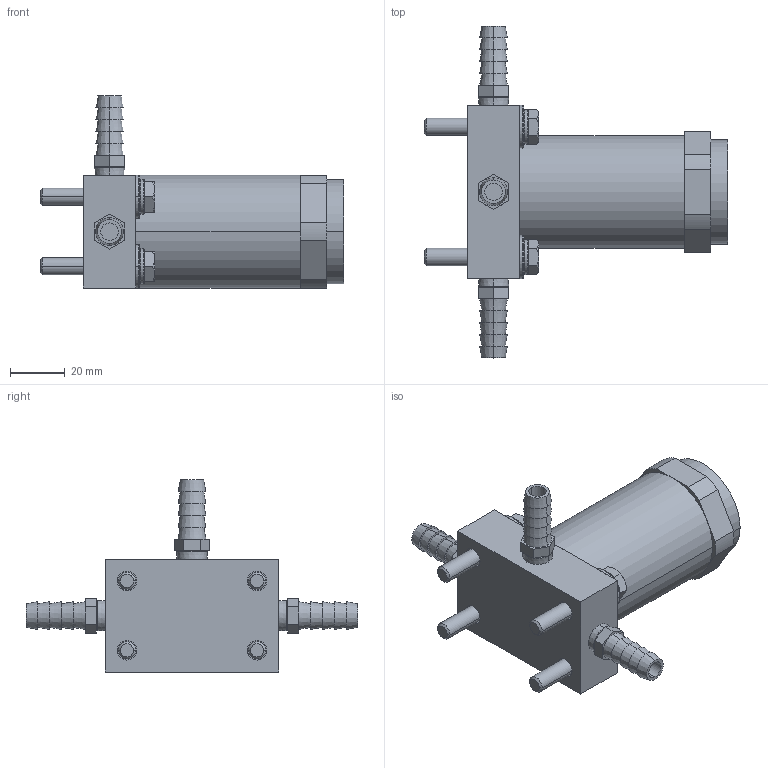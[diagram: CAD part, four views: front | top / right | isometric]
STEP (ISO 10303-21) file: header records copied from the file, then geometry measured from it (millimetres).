
FILE_DESCRIPTION((''),'2;1');
FILE_NAME('XL4_ASM','2017-08-24T',('jennifer.elliott'),('CenterLine (Windsor) Ltd - Automation Components Division'),'PRO/ENGINEER BY PARAMETRIC TECHNOLOGY CORPORATION, 2015030','PRO/ENGINEER BY PARAMETRIC TECHNOLOGY CORPORATION, 2015030','');
FILE_SCHEMA(('AUTOMOTIVE_DESIGN { 1 0 10303 214 1 1 1 1 }'));
Length unit declared in the file: inch
Products named in the file (17): PRT1591; PRT1592; PRT1593; PRT1594; PRT1595; PRT1596; PRT1597; PRT1598; PRT1599; PRT1600; ASM0023_ASM; PRT1601; PRT1602; PRT1603; PRT1604; TMP_DWG-3DSOLID_90; XL4_ASM
Assembly tree (16 placements, depth 3):
  XL4_ASM
    PRT1591
    PRT1592
    PRT1593
    PRT1594
    PRT1595
    PRT1596
    ASM0023_ASM
      PRT1597
      PRT1598
      PRT1599
      PRT1600
    PRT1601
    PRT1602
    PRT1603
    PRT1604
    TMP_DWG-3DSOLID_90
Bounding box: 111.12 x 121.41 x 70.23 mm (x, y, z)
Volume: 160524.9 mm3; surface area: 40232.1 mm2
Topology: 15 solids, 15 shells, 269 faces, 634 edges, 420 vertices
Faces by surface type: plane 119, cone 68, cylinder 58, torus 24
Entity records: 9249 total; most frequent: CARTESIAN_POINT 1858, DIRECTION 1458, ORIENTED_EDGE 1268, EDGE_CURVE 634, AXIS2_PLACEMENT_3D 606, VERTEX_POINT 420, EDGE_LOOP 316, CIRCLE 300
